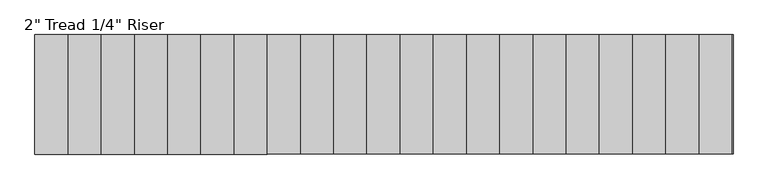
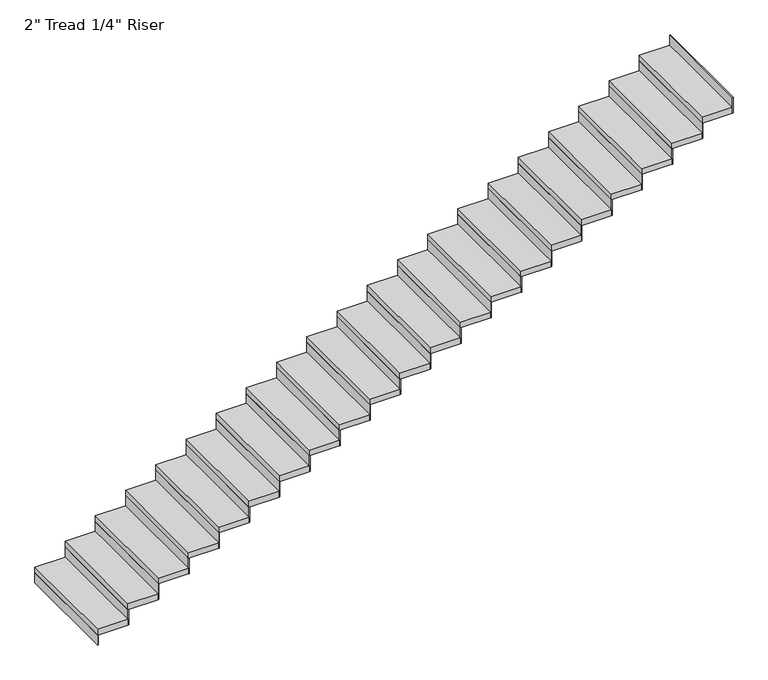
"""IFC4 building model written with IfcOpenShell, lengths in millimetres: stair flight geometry."""

from ifc_helpers import new_model, si_unit, frame, origin, origin_with_axes, place, context, project, spatial, polyline, outline, extrude, source, transform, mapped, element, save


def stair_flight_85ec2495(model_context):
    return source(origin(), model_context, "Body", "SweptSolid", [
        extrude(outline(polyline([(10185.0667764, -18868.6990002), (10178.7167764, -18868.6990002), (10178.7167764, -17954.2990002), (10185.0667764, -17954.2990002), (10185.0667764, -18868.6990002)])), origin_with_axes(), (0.0, 0.0, 1.0), 87.7454545),
        extrude(outline(polyline([(10432.7167764, -17954.2990002), (10432.7167764, -18868.6990002), (10178.7167764, -18868.6990002), (10178.7167764, -17954.2990002), (10432.7167764, -17954.2990002)])), frame((0.0, 0.0, 87.7454545), z_axis=(0.0, 0.0, 1.0), x_axis=(1.0, 0.0, 0.0)), (0.0, 0.0, 1.0), 50.8),
        extrude(outline(polyline([(10439.0667764, -18868.6990002), (10432.7167764, -18868.6990002), (10432.7167764, -17954.2990002), (10439.0667764, -17954.2990002), (10439.0667764, -18868.6990002)])), frame((0.0, 0.0, 87.7454545), z_axis=(0.0, 0.0, 1.0), x_axis=(1.0, 0.0, 0.0)), (0.0, 0.0, 1.0), 138.5454545),
        extrude(outline(polyline([(10686.7167764, -17954.2990002), (10686.7167764, -18868.6990002), (10432.7167764, -18868.6990002), (10432.7167764, -17954.2990002), (10686.7167764, -17954.2990002)])), frame((0.0, 0.0, 226.2909091), z_axis=(0.0, 0.0, 1.0), x_axis=(1.0, 0.0, 0.0)), (0.0, 0.0, 1.0), 50.8),
        extrude(outline(polyline([(10693.0667764, -18868.6990002), (10686.7167764, -18868.6990002), (10686.7167764, -17954.2990002), (10693.0667764, -17954.2990002), (10693.0667764, -18868.6990002)])), frame((0.0, 0.0, 226.2909091), z_axis=(0.0, 0.0, 1.0), x_axis=(1.0, 0.0, 0.0)), (0.0, 0.0, 1.0), 138.5454545),
        extrude(outline(polyline([(10940.7167764, -17954.2990002), (10940.7167764, -18868.6990002), (10686.7167764, -18868.6990002), (10686.7167764, -17954.2990002), (10940.7167764, -17954.2990002)])), frame((0.0, 0.0, 364.8363636), z_axis=(0.0, 0.0, 1.0), x_axis=(1.0, 0.0, 0.0)), (0.0, 0.0, 1.0), 50.8),
        extrude(outline(polyline([(10947.0667764, -18868.6990002), (10940.7167764, -18868.6990002), (10940.7167764, -17954.2990002), (10947.0667764, -17954.2990002), (10947.0667764, -18868.6990002)])), frame((0.0, 0.0, 364.8363636), z_axis=(0.0, 0.0, 1.0), x_axis=(1.0, 0.0, 0.0)), (0.0, 0.0, 1.0), 138.5454545),
        extrude(outline(polyline([(11194.7167764, -17954.2990002), (11194.7167764, -18868.6990002), (10940.7167764, -18868.6990002), (10940.7167764, -17954.2990002), (11194.7167764, -17954.2990002)])), frame((0.0, 0.0, 503.3818182), z_axis=(0.0, 0.0, 1.0), x_axis=(1.0, 0.0, 0.0)), (0.0, 0.0, 1.0), 50.8),
        extrude(outline(polyline([(11201.0667764, -18868.6990002), (11194.7167764, -18868.6990002), (11194.7167764, -17954.2990002), (11201.0667764, -17954.2990002), (11201.0667764, -18868.6990002)])), frame((0.0, 0.0, 503.3818182), z_axis=(0.0, 0.0, 1.0), x_axis=(1.0, 0.0, 0.0)), (0.0, 0.0, 1.0), 138.5454545),
        extrude(outline(polyline([(11448.7167764, -17954.2990002), (11448.7167764, -18868.6990002), (11194.7167764, -18868.6990002), (11194.7167764, -17954.2990002), (11448.7167764, -17954.2990002)])), frame((0.0, 0.0, 641.9272727), z_axis=(0.0, 0.0, 1.0), x_axis=(1.0, 0.0, 0.0)), (0.0, 0.0, 1.0), 50.8),
        extrude(outline(polyline([(11455.0667764, -18868.6990002), (11448.7167764, -18868.6990002), (11448.7167764, -17954.2990002), (11455.0667764, -17954.2990002), (11455.0667764, -18868.6990002)])), frame((0.0, 0.0, 641.9272727), z_axis=(0.0, 0.0, 1.0), x_axis=(1.0, 0.0, 0.0)), (0.0, 0.0, 1.0), 138.5454545),
        extrude(outline(polyline([(11702.7167764, -17954.2990002), (11702.7167764, -18868.6990002), (11448.7167764, -18868.6990002), (11448.7167764, -17954.2990002), (11702.7167764, -17954.2990002)])), frame((0.0, 0.0, 780.4727273), z_axis=(0.0, 0.0, 1.0), x_axis=(1.0, 0.0, 0.0)), (0.0, 0.0, 1.0), 50.8),
        extrude(outline(polyline([(11709.0667764, -18868.6990002), (11702.7167764, -18868.6990002), (11702.7167764, -17954.2990002), (11709.0667764, -17954.2990002), (11709.0667764, -18868.6990002)])), frame((0.0, 0.0, 780.4727273), z_axis=(0.0, 0.0, 1.0), x_axis=(1.0, 0.0, 0.0)), (0.0, 0.0, 1.0), 138.5454545),
        extrude(outline(polyline([(11956.7167764, -17954.2990002), (11956.7167764, -18868.6990002), (11702.7167764, -18868.6990002), (11702.7167764, -17954.2990002), (11956.7167764, -17954.2990002)])), frame((0.0, 0.0, 919.0181818), z_axis=(0.0, 0.0, 1.0), x_axis=(1.0, 0.0, 0.0)), (0.0, 0.0, 1.0), 50.8),
        extrude(outline(polyline([(11963.0667764, -18868.6990002), (11956.7167764, -18868.6990002), (11956.7167764, -17954.2990002), (11963.0667764, -17954.2990002), (11963.0667764, -18868.6990002)])), frame((0.0, 0.0, 919.0181818), z_axis=(0.0, 0.0, 1.0), x_axis=(1.0, 0.0, 0.0)), (0.0, 0.0, 1.0), 138.5454545),
        extrude(outline(polyline([(12210.7167764, -17954.2990002), (12210.7167764, -18868.6990002), (11956.7167764, -18868.6990002), (11956.7167764, -17954.2990002), (12210.7167764, -17954.2990002)])), frame((0.0, 0.0, 1057.5636364), z_axis=(0.0, 0.0, 1.0), x_axis=(1.0, 0.0, 0.0)), (0.0, 0.0, 1.0), 50.8),
        extrude(outline(polyline([(12217.0667764, -18868.6990002), (12210.7167764, -18868.6990002), (12210.7167764, -17954.2990002), (12217.0667764, -17954.2990002), (12217.0667764, -18868.6990002)])), frame((0.0, 0.0, 1057.5636364), z_axis=(0.0, 0.0, 1.0), x_axis=(1.0, 0.0, 0.0)), (0.0, 0.0, 1.0), 138.5454545),
        extrude(outline(polyline([(12464.7167764, -17954.2990002), (12464.7167764, -18868.6990002), (12210.7167764, -18868.6990002), (12210.7167764, -17954.2990002), (12464.7167764, -17954.2990002)])), frame((0.0, 0.0, 1196.1090909), z_axis=(0.0, 0.0, 1.0), x_axis=(1.0, 0.0, 0.0)), (0.0, 0.0, 1.0), 50.8),
        extrude(outline(polyline([(12471.0667764, -18868.6990002), (12464.7167764, -18868.6990002), (12464.7167764, -17954.2990002), (12471.0667764, -17954.2990002), (12471.0667764, -18868.6990002)])), frame((0.0, 0.0, 1196.1090909), z_axis=(0.0, 0.0, 1.0), x_axis=(1.0, 0.0, 0.0)), (0.0, 0.0, 1.0), 138.5454545),
        extrude(outline(polyline([(12718.7167764, -17954.2990002), (12718.7167764, -18868.6990002), (12464.7167764, -18868.6990002), (12464.7167764, -17954.2990002), (12718.7167764, -17954.2990002)])), frame((0.0, 0.0, 1334.6545455), z_axis=(0.0, 0.0, 1.0), x_axis=(1.0, 0.0, 0.0)), (0.0, 0.0, 1.0), 50.8),
        extrude(outline(polyline([(12725.0667764, -18868.6990002), (12718.7167764, -18868.6990002), (12718.7167764, -17954.2990002), (12725.0667764, -17954.2990002), (12725.0667764, -18868.6990002)])), frame((0.0, 0.0, 1334.6545455), z_axis=(0.0, 0.0, 1.0), x_axis=(1.0, 0.0, 0.0)), (0.0, 0.0, 1.0), 138.5454545),
        extrude(outline(polyline([(12972.7167764, -17954.2990002), (12972.7167764, -18868.6990002), (12718.7167764, -18868.6990002), (12718.7167764, -17954.2990002), (12972.7167764, -17954.2990002)])), frame((0.0, 0.0, 1473.2), z_axis=(0.0, 0.0, 1.0), x_axis=(1.0, 0.0, 0.0)), (0.0, 0.0, 1.0), 50.8),
        extrude(outline(polyline([(12979.0667764, -18868.6990002), (12972.7167764, -18868.6990002), (12972.7167764, -17954.2990002), (12979.0667764, -17954.2990002), (12979.0667764, -18868.6990002)])), frame((0.0, 0.0, 1473.2), z_axis=(0.0, 0.0, 1.0), x_axis=(1.0, 0.0, 0.0)), (0.0, 0.0, 1.0), 138.5454545),
        extrude(outline(polyline([(13226.7167764, -17954.2990002), (13226.7167764, -18868.6990002), (12972.7167764, -18868.6990002), (12972.7167764, -17954.2990002), (13226.7167764, -17954.2990002)])), frame((0.0, 0.0, 1611.7454545), z_axis=(0.0, 0.0, 1.0), x_axis=(1.0, 0.0, 0.0)), (0.0, 0.0, 1.0), 50.8),
        extrude(outline(polyline([(13233.0667764, -18868.6990002), (13226.7167764, -18868.6990002), (13226.7167764, -17954.2990002), (13233.0667764, -17954.2990002), (13233.0667764, -18868.6990002)])), frame((0.0, 0.0, 1611.7454545), z_axis=(0.0, 0.0, 1.0), x_axis=(1.0, 0.0, 0.0)), (0.0, 0.0, 1.0), 138.5454545),
        extrude(outline(polyline([(13480.7167764, -17954.2990002), (13480.7167764, -18868.6990002), (13226.7167764, -18868.6990002), (13226.7167764, -17954.2990002), (13480.7167764, -17954.2990002)])), frame((0.0, 0.0, 1750.2909091), z_axis=(0.0, 0.0, 1.0), x_axis=(1.0, 0.0, 0.0)), (0.0, 0.0, 1.0), 50.8),
        extrude(outline(polyline([(13487.0667764, -18868.6990002), (13480.7167764, -18868.6990002), (13480.7167764, -17954.2990002), (13487.0667764, -17954.2990002), (13487.0667764, -18868.6990002)])), frame((0.0, 0.0, 1750.2909091), z_axis=(0.0, 0.0, 1.0), x_axis=(1.0, 0.0, 0.0)), (0.0, 0.0, 1.0), 138.5454545),
        extrude(outline(polyline([(13734.7167764, -17954.2990002), (13734.7167764, -18868.6990002), (13480.7167764, -18868.6990002), (13480.7167764, -17954.2990002), (13734.7167764, -17954.2990002)])), frame((0.0, 0.0, 1888.8363636), z_axis=(0.0, 0.0, 1.0), x_axis=(1.0, 0.0, 0.0)), (0.0, 0.0, 1.0), 50.8),
        extrude(outline(polyline([(13741.0667764, -18868.6990002), (13734.7167764, -18868.6990002), (13734.7167764, -17954.2990002), (13741.0667764, -17954.2990002), (13741.0667764, -18868.6990002)])), frame((0.0, 0.0, 1888.8363636), z_axis=(0.0, 0.0, 1.0), x_axis=(1.0, 0.0, 0.0)), (0.0, 0.0, 1.0), 138.5454545),
        extrude(outline(polyline([(13988.7167764, -17954.2990002), (13988.7167764, -18868.6990002), (13734.7167764, -18868.6990002), (13734.7167764, -17954.2990002), (13988.7167764, -17954.2990002)])), frame((0.0, 0.0, 2027.3818182), z_axis=(0.0, 0.0, 1.0), x_axis=(1.0, 0.0, 0.0)), (0.0, 0.0, 1.0), 50.8),
        extrude(outline(polyline([(13995.0667764, -18868.6990002), (13988.7167764, -18868.6990002), (13988.7167764, -17954.2990002), (13995.0667764, -17954.2990002), (13995.0667764, -18868.6990002)])), frame((0.0, 0.0, 2027.3818182), z_axis=(0.0, 0.0, 1.0), x_axis=(1.0, 0.0, 0.0)), (0.0, 0.0, 1.0), 138.5454545),
        extrude(outline(polyline([(14242.7167764, -17954.2990002), (14242.7167764, -18868.6990002), (13988.7167764, -18868.6990002), (13988.7167764, -17954.2990002), (14242.7167764, -17954.2990002)])), frame((0.0, 0.0, 2165.9272727), z_axis=(0.0, 0.0, 1.0), x_axis=(1.0, 0.0, 0.0)), (0.0, 0.0, 1.0), 50.8),
        extrude(outline(polyline([(14249.0667764, -18868.6990002), (14242.7167764, -18868.6990002), (14242.7167764, -17954.2990002), (14249.0667764, -17954.2990002), (14249.0667764, -18868.6990002)])), frame((0.0, 0.0, 2165.9272727), z_axis=(0.0, 0.0, 1.0), x_axis=(1.0, 0.0, 0.0)), (0.0, 0.0, 1.0), 138.5454545),
        extrude(outline(polyline([(14496.7167764, -17954.2990002), (14496.7167764, -18868.6990002), (14242.7167764, -18868.6990002), (14242.7167764, -17954.2990002), (14496.7167764, -17954.2990002)])), frame((0.0, 0.0, 2304.4727273), z_axis=(0.0, 0.0, 1.0), x_axis=(1.0, 0.0, 0.0)), (0.0, 0.0, 1.0), 50.8),
        extrude(outline(polyline([(14503.0667764, -18868.6990002), (14496.7167764, -18868.6990002), (14496.7167764, -17954.2990002), (14503.0667764, -17954.2990002), (14503.0667764, -18868.6990002)])), frame((0.0, 0.0, 2304.4727273), z_axis=(0.0, 0.0, 1.0), x_axis=(1.0, 0.0, 0.0)), (0.0, 0.0, 1.0), 138.5454545),
        extrude(outline(polyline([(14750.7167764, -17954.2990002), (14750.7167764, -18868.6990002), (14496.7167764, -18868.6990002), (14496.7167764, -17954.2990002), (14750.7167764, -17954.2990002)])), frame((0.0, 0.0, 2443.0181818), z_axis=(0.0, 0.0, 1.0), x_axis=(1.0, 0.0, 0.0)), (0.0, 0.0, 1.0), 50.8),
        extrude(outline(polyline([(14757.0667764, -18868.6990002), (14750.7167764, -18868.6990002), (14750.7167764, -17954.2990002), (14757.0667764, -17954.2990002), (14757.0667764, -18868.6990002)])), frame((0.0, 0.0, 2443.0181818), z_axis=(0.0, 0.0, 1.0), x_axis=(1.0, 0.0, 0.0)), (0.0, 0.0, 1.0), 138.5454545),
        extrude(outline(polyline([(15004.7167764, -17954.2990002), (15004.7167764, -18868.6990002), (14750.7167764, -18868.6990002), (14750.7167764, -17954.2990002), (15004.7167764, -17954.2990002)])), frame((0.0, 0.0, 2581.5636364), z_axis=(0.0, 0.0, 1.0), x_axis=(1.0, 0.0, 0.0)), (0.0, 0.0, 1.0), 50.8),
        extrude(outline(polyline([(15011.0667764, -18868.6990002), (15004.7167764, -18868.6990002), (15004.7167764, -17954.2990002), (15011.0667764, -17954.2990002), (15011.0667764, -18868.6990002)])), frame((0.0, 0.0, 2581.5636364), z_axis=(0.0, 0.0, 1.0), x_axis=(1.0, 0.0, 0.0)), (0.0, 0.0, 1.0), 138.5454545),
        extrude(outline(polyline([(15258.7167764, -17954.2990002), (15258.7167764, -18868.6990002), (15004.7167764, -18868.6990002), (15004.7167764, -17954.2990002), (15258.7167764, -17954.2990002)])), frame((0.0, 0.0, 2720.1090909), z_axis=(0.0, 0.0, 1.0), x_axis=(1.0, 0.0, 0.0)), (0.0, 0.0, 1.0), 50.8),
        extrude(outline(polyline([(15265.0667764, -18868.6990002), (15258.7167764, -18868.6990002), (15258.7167764, -17954.2990002), (15265.0667764, -17954.2990002), (15265.0667764, -18868.6990002)])), frame((0.0, 0.0, 2720.1090909), z_axis=(0.0, 0.0, 1.0), x_axis=(1.0, 0.0, 0.0)), (0.0, 0.0, 1.0), 138.5454545),
        extrude(outline(polyline([(15519.0667764, -18868.6990002), (15512.7167764, -18868.6990002), (15512.7167764, -17954.2990002), (15519.0667764, -17954.2990002), (15519.0667764, -18868.6990002)])), frame((0.0, 0.0, 2858.6545455), z_axis=(0.0, 0.0, 1.0), x_axis=(1.0, 0.0, 0.0)), (0.0, 0.0, 1.0), 138.5454545),
        extrude(outline(polyline([(15512.7167764, -17954.2990002), (15512.7167764, -18868.6990002), (15258.7167764, -18868.6990002), (15258.7167764, -17954.2990002), (15512.7167764, -17954.2990002)])), frame((0.0, 0.0, 2858.6545455), z_axis=(0.0, 0.0, 1.0), x_axis=(1.0, 0.0, 0.0)), (0.0, 0.0, 1.0), 50.8),
    ])


if __name__ == "__main__":
    model = new_model("IFC4")
    model_context = context("Model", 3, world=origin())
    ifc_project = project(units=[si_unit("LENGTHUNIT", "METRE", prefix="MILLI")], contexts=[model_context])
    site = spatial("IfcSite", under=ifc_project)
    building = spatial("IfcBuilding", under=site)
    placement = place(None, origin())
    stair_flight_shape = stair_flight_85ec2495(model_context)
    element("IfcStairFlight", 1, ObjectType="2\" Tread 1/4\" Riser", at=placement, inside=building, context=model_context, shape_type="MappedRepresentation", body=[
        mapped(stair_flight_shape, transform((0.0, 0.0, 0.0), x_axis=(1.0, 0.0, 0.0), y_axis=(0.0, 1.0, 0.0), z_axis=(0.0, 0.0, 1.0))),
    ])
    save(model, "model.ifc")
